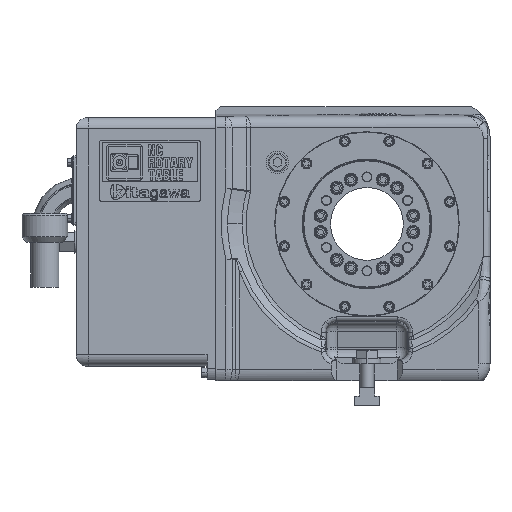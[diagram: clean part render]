
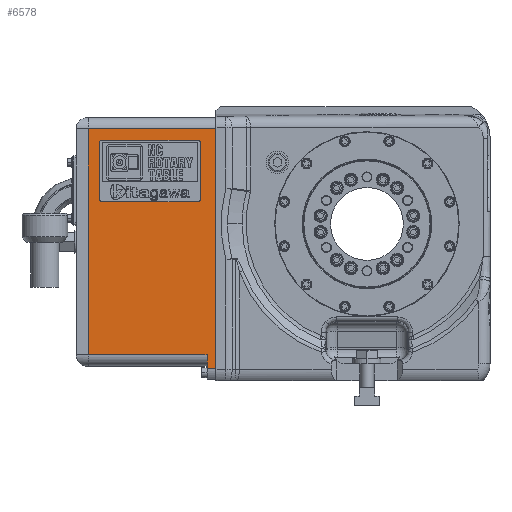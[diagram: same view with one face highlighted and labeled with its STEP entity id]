
A CAD part, top view. The second image highlights one B-rep face of the part: STEP entity #6578.
In plain terms, the highlighted planar face has unit normal (0, 0, 1).
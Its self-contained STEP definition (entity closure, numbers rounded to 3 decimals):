
#3546 = CARTESIAN_POINT ( 'NONE',  ( -359.783, 10., 0. ) ) ;
#3623 = LINE ( 'NONE', #158554, #131105 ) ;
#4247 = VECTOR ( 'NONE', #129141, 1000. ) ;
#6578 = ADVANCED_FACE ( 'NONE', ( #59927 ), #135756, .F. ) ;
#7022 = ORIENTED_EDGE ( 'NONE', *, *, #32189, .F. ) ;
#14958 = VERTEX_POINT ( 'NONE', #76261 ) ;
#17593 = VECTOR ( 'NONE', #102339, 1000. ) ;
#24060 = CARTESIAN_POINT ( 'NONE',  ( -114., 234., 0. ) ) ;
#24623 = CARTESIAN_POINT ( 'NONE',  ( 0., 224., 0. ) ) ;
#25072 = DIRECTION ( 'NONE',  ( 0., -1., 0. ) ) ;
#25096 = DIRECTION ( 'NONE',  ( 0., 1., 0. ) ) ;
#27581 = CARTESIAN_POINT ( 'NONE',  ( -8., 22., 0. ) ) ;
#32189 = EDGE_CURVE ( 'NONE', #67518, #143342, #3623, .T. ) ;
#37805 = VECTOR ( 'NONE', #25072, 1000. ) ;
#39804 = ORIENTED_EDGE ( 'NONE', *, *, #159018, .T. ) ;
#45210 = CARTESIAN_POINT ( 'NONE',  ( -8., 10., 0. ) ) ;
#45943 = ORIENTED_EDGE ( 'NONE', *, *, #75732, .F. ) ;
#49216 = VERTEX_POINT ( 'NONE', #45210 ) ;
#50529 = LINE ( 'NONE', #107101, #112278 ) ;
#54638 = EDGE_CURVE ( 'NONE', #156098, #14958, #158477, .T. ) ;
#55242 = CARTESIAN_POINT ( 'NONE',  ( -8., 224., 0. ) ) ;
#55338 = AXIS2_PLACEMENT_3D ( 'NONE', #148214, #99058, #25096 ) ;
#59294 = VERTEX_POINT ( 'NONE', #27581 ) ;
#59731 = DIRECTION ( 'NONE',  ( 0., -1., 0. ) ) ;
#59927 = FACE_OUTER_BOUND ( 'NONE', #140043, .T. ) ;
#60352 = ORIENTED_EDGE ( 'NONE', *, *, #54638, .T. ) ;
#67518 = VERTEX_POINT ( 'NONE', #24623 ) ;
#71783 = CARTESIAN_POINT ( 'NONE',  ( -114., 224., 0. ) ) ;
#75732 = EDGE_CURVE ( 'NONE', #59294, #14958, #50529, .T. ) ;
#76261 = CARTESIAN_POINT ( 'NONE',  ( -114., 22., 0. ) ) ;
#84988 = VECTOR ( 'NONE', #147703, 1000. ) ;
#99030 = CARTESIAN_POINT ( 'NONE',  ( -8., 0., 0. ) ) ;
#99058 = DIRECTION ( 'NONE',  ( 0., 0., -1. ) ) ;
#102339 = DIRECTION ( 'NONE',  ( 1., 0., 0. ) ) ;
#107101 = CARTESIAN_POINT ( 'NONE',  ( -8., 22., 0. ) ) ;
#111656 = EDGE_CURVE ( 'NONE', #156098, #67518, #131725, .T. ) ;
#112278 = VECTOR ( 'NONE', #119564, 1000. ) ;
#119564 = DIRECTION ( 'NONE',  ( -1., 0., 0. ) ) ;
#124402 = CARTESIAN_POINT ( 'NONE',  ( 0., 10., 0. ) ) ;
#129141 = DIRECTION ( 'NONE',  ( 1., 0., 0. ) ) ;
#131105 = VECTOR ( 'NONE', #59731, 1000. ) ;
#131725 = LINE ( 'NONE', #55242, #4247 ) ;
#132451 = LINE ( 'NONE', #99030, #37805 ) ;
#135756 = PLANE ( 'NONE',  #55338 ) ;
#140043 = EDGE_LOOP ( 'NONE', ( #39804, #159698, #7022, #144392, #60352, #45943 ) ) ;
#143342 = VERTEX_POINT ( 'NONE', #124402 ) ;
#144392 = ORIENTED_EDGE ( 'NONE', *, *, #111656, .F. ) ;
#147703 = DIRECTION ( 'NONE',  ( 0., -1., 0. ) ) ;
#148214 = CARTESIAN_POINT ( 'NONE',  ( -8., 0., 0. ) ) ;
#149005 = LINE ( 'NONE', #3546, #17593 ) ;
#156098 = VERTEX_POINT ( 'NONE', #71783 ) ;
#156665 = EDGE_CURVE ( 'NONE', #49216, #143342, #149005, .T. ) ;
#158477 = LINE ( 'NONE', #24060, #84988 ) ;
#158554 = CARTESIAN_POINT ( 'NONE',  ( 0., 0., 0. ) ) ;
#159018 = EDGE_CURVE ( 'NONE', #59294, #49216, #132451, .T. ) ;
#159698 = ORIENTED_EDGE ( 'NONE', *, *, #156665, .T. ) ;
